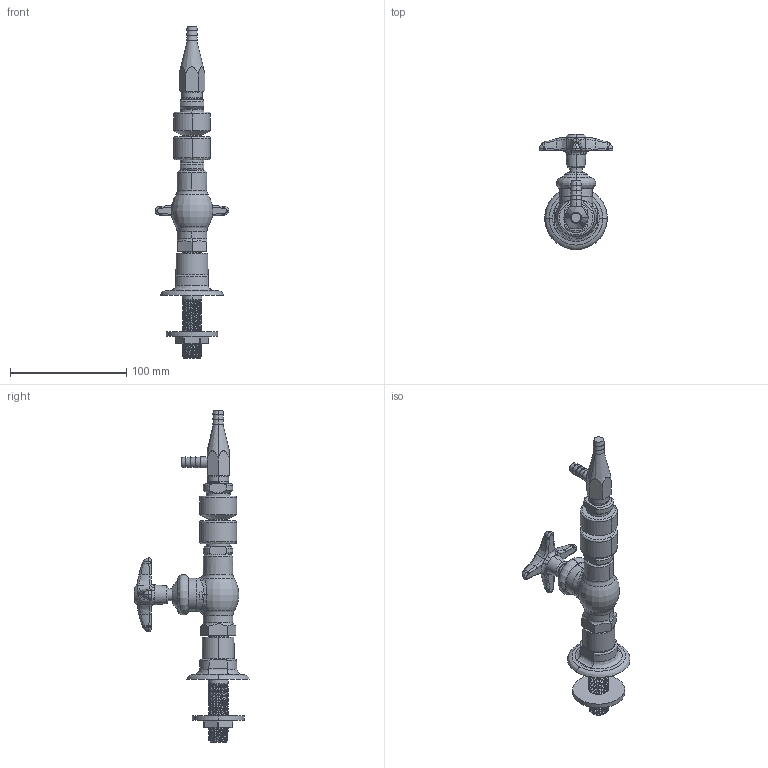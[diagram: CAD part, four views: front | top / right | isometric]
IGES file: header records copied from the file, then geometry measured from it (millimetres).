
Start section:  PTC IGES file: LWV1-B62-55.igs
Global section: file name: LWV1-B62-55.igs; native system: Creo Parametric by PTC Inc.; preprocessor: 2014500; author: usch_engrender; organization: Unknown; date: 20151111.141813; units: inch
Bounding box: 63.41 x 98.82 x 285.21 mm (x, y, z)
Volume: 174826.9 mm3; surface area: 42979.4 mm2
Topology: 1 solids, 6 shells, 552 faces, 1362 edges, 842 vertices
Faces by surface type: bspline 300, revolution 252
